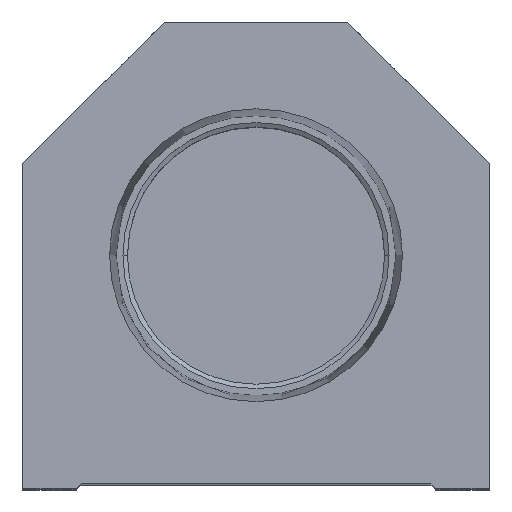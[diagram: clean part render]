
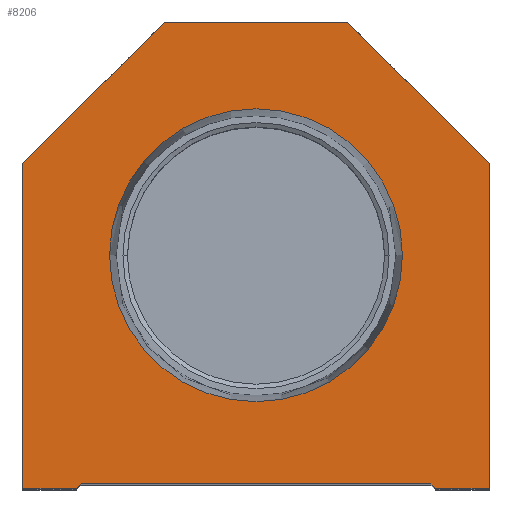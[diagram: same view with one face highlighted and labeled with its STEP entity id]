
A CAD part, top view. The second image highlights one B-rep face of the part: STEP entity #8206.
In plain terms, the highlighted planar face has unit normal (0, 0, 1).
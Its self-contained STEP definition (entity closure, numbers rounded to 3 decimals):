
#413 = VECTOR ( 'NONE', #11617, 1000. ) ;
#423 = EDGE_CURVE ( 'NONE', #16219, #15611, #19338, .T. ) ;
#595 = CARTESIAN_POINT ( 'NONE',  ( 25.4, 0., 0. ) ) ;
#800 = CARTESIAN_POINT ( 'NONE',  ( -15.947, 25.4, 0. ) ) ;
#804 = VERTEX_POINT ( 'NONE', #11341 ) ;
#875 = CARTESIAN_POINT ( 'NONE',  ( 19.55, 0., 0. ) ) ;
#949 = LINE ( 'NONE', #16060, #17685 ) ;
#978 = CARTESIAN_POINT ( 'NONE',  ( -19.05, 0.5, 0. ) ) ;
#1084 = ORIENTED_EDGE ( 'NONE', *, *, #15021, .T. ) ;
#2111 = CARTESIAN_POINT ( 'NONE',  ( 25.4, 35.4, 0. ) ) ;
#2445 = DIRECTION ( 'NONE',  ( 0.707, -0.707, 0. ) ) ;
#2801 = CARTESIAN_POINT ( 'NONE',  ( -9.775, 9.775, 0. ) ) ;
#3025 = ORIENTED_EDGE ( 'NONE', *, *, #17773, .T. ) ;
#3077 = EDGE_CURVE ( 'NONE', #4739, #19040, #949, .T. ) ;
#3793 = ORIENTED_EDGE ( 'NONE', *, *, #12926, .T. ) ;
#3922 = CARTESIAN_POINT ( 'NONE',  ( 0., 0., 0. ) ) ;
#4118 = CARTESIAN_POINT ( 'NONE',  ( -25.4, 0., 0. ) ) ;
#4213 = ORIENTED_EDGE ( 'NONE', *, *, #4541, .T. ) ;
#4229 = VECTOR ( 'NONE', #4243, 1000. ) ;
#4243 = DIRECTION ( 'NONE',  ( 0., 1., 0. ) ) ;
#4367 = DIRECTION ( 'NONE',  ( 0., 0., 1. ) ) ;
#4380 = ORIENTED_EDGE ( 'NONE', *, *, #19631, .T. ) ;
#4541 = EDGE_CURVE ( 'NONE', #6170, #8512, #12336, .T. ) ;
#4601 = EDGE_LOOP ( 'NONE', ( #7238, #3025, #8627, #16462, #8948, #3793, #4213, #1084, #4380, #8666 ) ) ;
#4739 = VERTEX_POINT ( 'NONE', #16479 ) ;
#4752 = DIRECTION ( 'NONE',  ( -0.707, 0.707, 0. ) ) ;
#4801 = DIRECTION ( 'NONE',  ( 0., 0., 1. ) ) ;
#5164 = CARTESIAN_POINT ( 'NONE',  ( -25.4, 0., 0. ) ) ;
#5215 = LINE ( 'NONE', #13060, #16947 ) ;
#5344 = EDGE_CURVE ( 'NONE', #804, #4739, #8539, .T. ) ;
#5514 = DIRECTION ( 'NONE',  ( 1., 0., 0. ) ) ;
#5714 = CARTESIAN_POINT ( 'NONE',  ( 25.4, 0., 0. ) ) ;
#6170 = VERTEX_POINT ( 'NONE', #6320 ) ;
#6320 = CARTESIAN_POINT ( 'NONE',  ( 25.4, 35.4, 0. ) ) ;
#6807 = CARTESIAN_POINT ( 'NONE',  ( -10., 50.8, 0. ) ) ;
#6887 = VECTOR ( 'NONE', #17808, 1000. ) ;
#6918 = CARTESIAN_POINT ( 'NONE',  ( -25.4, 35.4, 0. ) ) ;
#7076 = EDGE_CURVE ( 'NONE', #8129, #16219, #18048, .T. ) ;
#7238 = ORIENTED_EDGE ( 'NONE', *, *, #423, .T. ) ;
#7261 = CARTESIAN_POINT ( 'NONE',  ( 0., 25.4, 0. ) ) ;
#7361 = DIRECTION ( 'NONE',  ( 0.707, 0.707, 0. ) ) ;
#7727 = CIRCLE ( 'NONE', #16296, 15.947 ) ;
#7763 = CIRCLE ( 'NONE', #13479, 15.947 ) ;
#7906 = VECTOR ( 'NONE', #4752, 1000. ) ;
#7909 = DIRECTION ( 'NONE',  ( 1., 0., 0. ) ) ;
#8129 = VERTEX_POINT ( 'NONE', #6918 ) ;
#8206 = ADVANCED_FACE ( 'NONE', ( #19037, #11494 ), #17552, .T. ) ;
#8418 = VERTEX_POINT ( 'NONE', #6807 ) ;
#8512 = VERTEX_POINT ( 'NONE', #14750 ) ;
#8539 = LINE ( 'NONE', #978, #9767 ) ;
#8627 = ORIENTED_EDGE ( 'NONE', *, *, #5344, .T. ) ;
#8666 = ORIENTED_EDGE ( 'NONE', *, *, #7076, .T. ) ;
#8753 = DIRECTION ( 'NONE',  ( 1., 0., 0. ) ) ;
#8948 = ORIENTED_EDGE ( 'NONE', *, *, #14921, .T. ) ;
#9072 = DIRECTION ( 'NONE',  ( 1., 0., 0. ) ) ;
#9404 = DIRECTION ( 'NONE',  ( -1., 0., 0. ) ) ;
#9555 = ORIENTED_EDGE ( 'NONE', *, *, #17753, .F. ) ;
#9767 = VECTOR ( 'NONE', #8753, 1000. ) ;
#10555 = EDGE_LOOP ( 'NONE', ( #9555, #17673 ) ) ;
#10708 = LINE ( 'NONE', #18231, #14428 ) ;
#10800 = VERTEX_POINT ( 'NONE', #595 ) ;
#10851 = VERTEX_POINT ( 'NONE', #800 ) ;
#11341 = CARTESIAN_POINT ( 'NONE',  ( -19.05, 0.5, 0. ) ) ;
#11494 = FACE_OUTER_BOUND ( 'NONE', #4601, .T. ) ;
#11617 = DIRECTION ( 'NONE',  ( 0., -1., 0. ) ) ;
#11624 = LINE ( 'NONE', #5714, #4229 ) ;
#11689 = CARTESIAN_POINT ( 'NONE',  ( -19.55, 0., 0. ) ) ;
#12336 = LINE ( 'NONE', #2111, #7906 ) ;
#12384 = CARTESIAN_POINT ( 'NONE',  ( 0., 25.4, 0. ) ) ;
#12926 = EDGE_CURVE ( 'NONE', #10800, #6170, #11624, .T. ) ;
#13060 = CARTESIAN_POINT ( 'NONE',  ( 19.05, 0., 0. ) ) ;
#13091 = AXIS2_PLACEMENT_3D ( 'NONE', #3922, #19156, #5514 ) ;
#13479 = AXIS2_PLACEMENT_3D ( 'NONE', #12384, #4801, #7909 ) ;
#14428 = VECTOR ( 'NONE', #15441, 1000. ) ;
#14750 = CARTESIAN_POINT ( 'NONE',  ( 10., 50.8, 0. ) ) ;
#14883 = EDGE_CURVE ( 'NONE', #10851, #17154, #7763, .T. ) ;
#14915 = LINE ( 'NONE', #2801, #16593 ) ;
#14921 = EDGE_CURVE ( 'NONE', #19040, #10800, #5215, .T. ) ;
#15021 = EDGE_CURVE ( 'NONE', #8512, #8418, #18406, .T. ) ;
#15156 = CARTESIAN_POINT ( 'NONE',  ( 10., 50.8, 0. ) ) ;
#15441 = DIRECTION ( 'NONE',  ( -0.707, -0.707, 0. ) ) ;
#15611 = VERTEX_POINT ( 'NONE', #11689 ) ;
#16060 = CARTESIAN_POINT ( 'NONE',  ( 9.775, 9.775, 0. ) ) ;
#16148 = DIRECTION ( 'NONE',  ( 1., 0., 0. ) ) ;
#16219 = VERTEX_POINT ( 'NONE', #5164 ) ;
#16296 = AXIS2_PLACEMENT_3D ( 'NONE', #7261, #4367, #9072 ) ;
#16462 = ORIENTED_EDGE ( 'NONE', *, *, #3077, .T. ) ;
#16479 = CARTESIAN_POINT ( 'NONE',  ( 19.05, 0.5, 0. ) ) ;
#16593 = VECTOR ( 'NONE', #7361, 1000. ) ;
#16947 = VECTOR ( 'NONE', #16148, 1000. ) ;
#17154 = VERTEX_POINT ( 'NONE', #18955 ) ;
#17552 = PLANE ( 'NONE',  #13091 ) ;
#17673 = ORIENTED_EDGE ( 'NONE', *, *, #14883, .F. ) ;
#17685 = VECTOR ( 'NONE', #2445, 1000. ) ;
#17753 = EDGE_CURVE ( 'NONE', #17154, #10851, #7727, .T. ) ;
#17773 = EDGE_CURVE ( 'NONE', #15611, #804, #14915, .T. ) ;
#17808 = DIRECTION ( 'NONE',  ( 1., 0., 0. ) ) ;
#17926 = CARTESIAN_POINT ( 'NONE',  ( -19.05, 0., 0. ) ) ;
#18048 = LINE ( 'NONE', #4118, #413 ) ;
#18231 = CARTESIAN_POINT ( 'NONE',  ( -25.4, 35.4, 0. ) ) ;
#18406 = LINE ( 'NONE', #15156, #18879 ) ;
#18879 = VECTOR ( 'NONE', #9404, 1000. ) ;
#18955 = CARTESIAN_POINT ( 'NONE',  ( 15.947, 25.4, 0. ) ) ;
#19037 = FACE_BOUND ( 'NONE', #10555, .T. ) ;
#19040 = VERTEX_POINT ( 'NONE', #875 ) ;
#19156 = DIRECTION ( 'NONE',  ( 0., 0., 1. ) ) ;
#19338 = LINE ( 'NONE', #17926, #6887 ) ;
#19631 = EDGE_CURVE ( 'NONE', #8418, #8129, #10708, .T. ) ;
